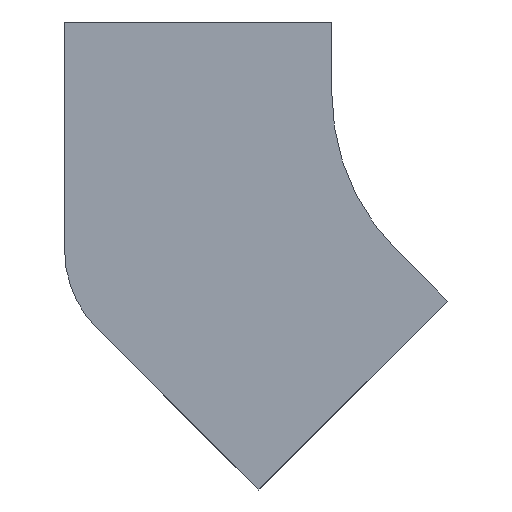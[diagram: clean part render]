
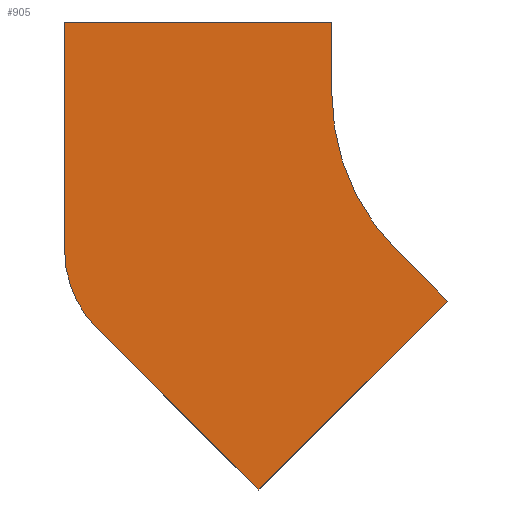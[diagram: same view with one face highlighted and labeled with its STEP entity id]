
A CAD part, front view. The second image highlights one B-rep face of the part: STEP entity #905.
In plain terms, the highlighted planar face has unit normal (0, -1, 0).
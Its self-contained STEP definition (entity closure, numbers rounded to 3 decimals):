
#30 = ORIENTED_EDGE ( 'NONE', *, *, #114, .F. ) ;
#32 = DIRECTION ( 'NONE',  ( 0.707, 0., -0.707 ) ) ;
#39 = DIRECTION ( 'NONE',  ( 0., -1., 0. ) ) ;
#49 = DIRECTION ( 'NONE',  ( 0., 1., 0. ) ) ;
#100 = CARTESIAN_POINT ( 'NONE',  ( -275., 0., -88.02 ) ) ;
#114 = EDGE_CURVE ( 'NONE', #1412, #527, #1463, .T. ) ;
#135 = CARTESIAN_POINT ( 'NONE',  ( -275., 0., -88.02 ) ) ;
#169 = PLANE ( 'NONE',  #513 ) ;
#212 = VERTEX_POINT ( 'NONE', #718 ) ;
#223 = DIRECTION ( 'NONE',  ( 0., -1., 0. ) ) ;
#246 = VECTOR ( 'NONE', #1569, 1000. ) ;
#275 = VECTOR ( 'NONE', #599, 1000. ) ;
#301 = CARTESIAN_POINT ( 'NONE',  ( -60.104, 0., -116.673 ) ) ;
#337 = EDGE_CURVE ( 'NONE', #212, #360, #1113, .T. ) ;
#360 = VERTEX_POINT ( 'NONE', #1027 ) ;
#381 = DIRECTION ( 'NONE',  ( 1., 0., 0. ) ) ;
#403 = VECTOR ( 'NONE', #654, 1000. ) ;
#413 = EDGE_CURVE ( 'NONE', #852, #609, #660, .T. ) ;
#423 = VECTOR ( 'NONE', #32, 1000. ) ;
#443 = FACE_OUTER_BOUND ( 'NONE', #547, .T. ) ;
#452 = AXIS2_PLACEMENT_3D ( 'NONE', #942, #49, #1346 ) ;
#513 = AXIS2_PLACEMENT_3D ( 'NONE', #690, #39, #1593 ) ;
#521 = ORIENTED_EDGE ( 'NONE', *, *, #1279, .F. ) ;
#527 = VERTEX_POINT ( 'NONE', #1466 ) ;
#547 = EDGE_LOOP ( 'NONE', ( #1068, #1235, #521, #989, #30, #1169, #1204, #687 ) ) ;
#548 = CARTESIAN_POINT ( 'NONE',  ( -275., 0., 40. ) ) ;
#558 = CARTESIAN_POINT ( 'NONE',  ( -88.388, 0., -88.388 ) ) ;
#599 = DIRECTION ( 'NONE',  ( -0.707, 0., -0.707 ) ) ;
#609 = VERTEX_POINT ( 'NONE', #882 ) ;
#624 = CIRCLE ( 'NONE', #452, 62.5 ) ;
#654 = DIRECTION ( 'NONE',  ( 0., 0., 1. ) ) ;
#660 = LINE ( 'NONE', #1542, #731 ) ;
#671 = LINE ( 'NONE', #938, #246 ) ;
#687 = ORIENTED_EDGE ( 'NONE', *, *, #857, .F. ) ;
#690 = CARTESIAN_POINT ( 'NONE',  ( 0., 0., 0. ) ) ;
#708 = LINE ( 'NONE', #558, #423 ) ;
#718 = CARTESIAN_POINT ( 'NONE',  ( -125., 0., 0. ) ) ;
#731 = VECTOR ( 'NONE', #381, 1000. ) ;
#770 = EDGE_CURVE ( 'NONE', #965, #852, #1420, .T. ) ;
#805 = VECTOR ( 'NONE', #1522, 1000. ) ;
#852 = VERTEX_POINT ( 'NONE', #548 ) ;
#857 = EDGE_CURVE ( 'NONE', #609, #212, #671, .T. ) ;
#864 = CARTESIAN_POINT ( 'NONE',  ( 0., 0., 0. ) ) ;
#882 = CARTESIAN_POINT ( 'NONE',  ( -125., 0., 40. ) ) ;
#905 = ADVANCED_FACE ( 'NONE', ( #443 ), #169, .T. ) ;
#938 = CARTESIAN_POINT ( 'NONE',  ( -125., 0., 40. ) ) ;
#942 = CARTESIAN_POINT ( 'NONE',  ( -212.5, 0., -88.02 ) ) ;
#965 = VERTEX_POINT ( 'NONE', #100 ) ;
#989 = ORIENTED_EDGE ( 'NONE', *, *, #1436, .F. ) ;
#1027 = CARTESIAN_POINT ( 'NONE',  ( -88.388, 0., -88.388 ) ) ;
#1068 = ORIENTED_EDGE ( 'NONE', *, *, #413, .F. ) ;
#1113 = CIRCLE ( 'NONE', #1410, 125. ) ;
#1117 = DIRECTION ( 'NONE',  ( 0., 0., -1. ) ) ;
#1125 = CARTESIAN_POINT ( 'NONE',  ( -166.17, 0., -222.739 ) ) ;
#1169 = ORIENTED_EDGE ( 'NONE', *, *, #1663, .F. ) ;
#1204 = ORIENTED_EDGE ( 'NONE', *, *, #337, .F. ) ;
#1235 = ORIENTED_EDGE ( 'NONE', *, *, #770, .F. ) ;
#1279 = EDGE_CURVE ( 'NONE', #1501, #965, #624, .T. ) ;
#1346 = DIRECTION ( 'NONE',  ( 0., 0., 1. ) ) ;
#1381 = LINE ( 'NONE', #1125, #805 ) ;
#1410 = AXIS2_PLACEMENT_3D ( 'NONE', #864, #223, #1117 ) ;
#1412 = VERTEX_POINT ( 'NONE', #1621 ) ;
#1420 = LINE ( 'NONE', #135, #403 ) ;
#1436 = EDGE_CURVE ( 'NONE', #527, #1501, #1381, .T. ) ;
#1463 = LINE ( 'NONE', #301, #275 ) ;
#1466 = CARTESIAN_POINT ( 'NONE',  ( -166.17, 0., -222.739 ) ) ;
#1501 = VERTEX_POINT ( 'NONE', #1553 ) ;
#1522 = DIRECTION ( 'NONE',  ( -0.707, 0., 0.707 ) ) ;
#1542 = CARTESIAN_POINT ( 'NONE',  ( -275., 0., 40. ) ) ;
#1553 = CARTESIAN_POINT ( 'NONE',  ( -256.694, 0., -132.215 ) ) ;
#1569 = DIRECTION ( 'NONE',  ( 0., 0., -1. ) ) ;
#1593 = DIRECTION ( 'NONE',  ( 0., 0., -1. ) ) ;
#1621 = CARTESIAN_POINT ( 'NONE',  ( -60.104, 0., -116.673 ) ) ;
#1663 = EDGE_CURVE ( 'NONE', #360, #1412, #708, .T. ) ;
